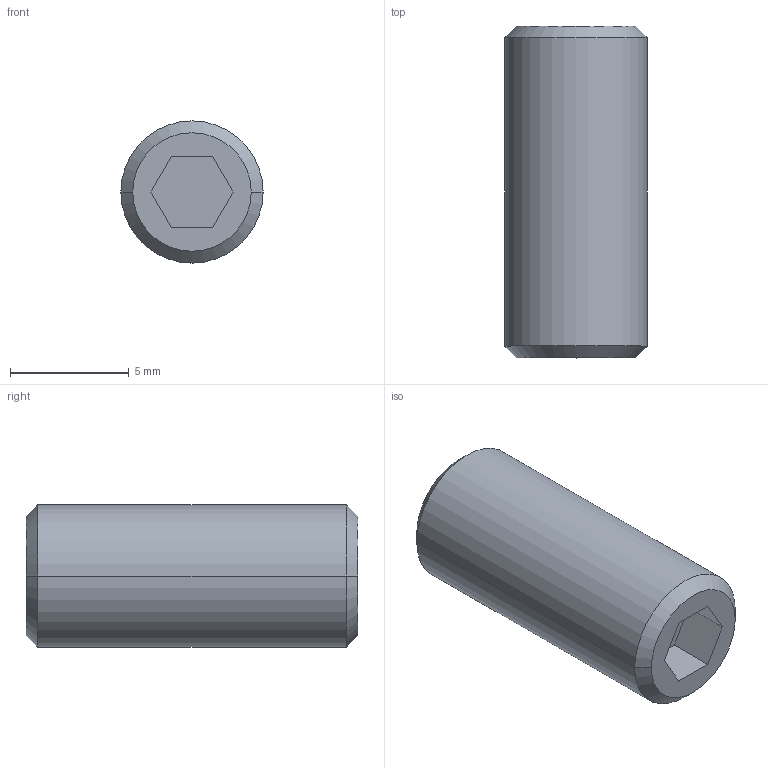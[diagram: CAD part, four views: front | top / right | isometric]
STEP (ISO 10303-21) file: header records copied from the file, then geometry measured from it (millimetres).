
FILE_DESCRIPTION((''),'2;1');
FILE_NAME('VTGEI0614','2002-12-27T',('Lipro doo'),('Lipro d.o.o.'),'PRO/ENGINEER BY PARAMETRIC TECHNOLOGY CORPORATION, 2001150','PRO/ENGINEER BY PARAMETRIC TECHNOLOGY CORPORATION, 2001150','');
FILE_SCHEMA(('CONFIG_CONTROL_DESIGN'));
Length unit declared in the file: millimetre
Products named in the file (1): VTGEI0614
Bounding box: 6 x 14 x 6 mm (x, y, z)
Volume: 375.8 mm3; surface area: 549.4 mm2
Topology: 1 solids, 2 shells, 17 faces, 38 edges, 24 vertices
Faces by surface type: plane 9, cone 4, cylinder 4
Entity records: 516 total; most frequent: DIRECTION 86, CARTESIAN_POINT 80, ORIENTED_EDGE 72, EDGE_CURVE 38, AXIS2_PLACEMENT_3D 30, VECTOR 26, LINE 26, VERTEX_POINT 24
